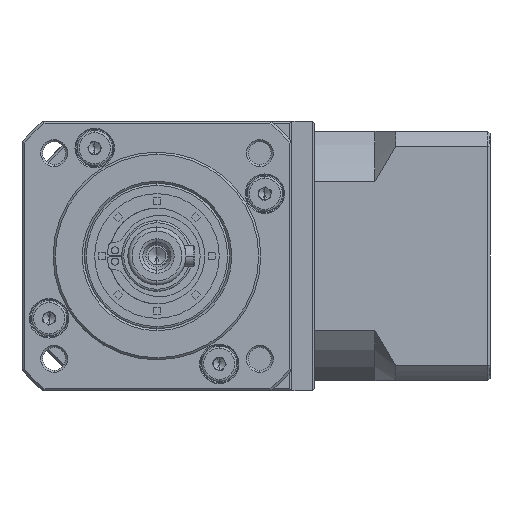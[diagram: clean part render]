
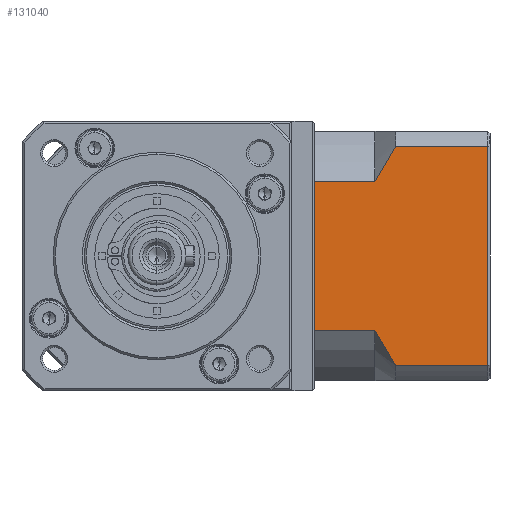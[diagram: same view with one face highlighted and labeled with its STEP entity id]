
A CAD part, left-side view. The second image highlights one B-rep face of the part: STEP entity #131040.
In plain terms, the highlighted planar face has unit normal (-1, 0, 0).
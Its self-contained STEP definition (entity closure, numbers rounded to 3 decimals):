
#214 = CARTESIAN_POINT ( 'NONE',  ( -9.184, -51.53, -147.118 ) ) ;
#3500 = CARTESIAN_POINT ( 'NONE',  ( -9.184, -77.98, -101.176 ) ) ;
#3913 = CARTESIAN_POINT ( 'NONE',  ( -9.184, -36.28, -109.606 ) ) ;
#5888 = EDGE_CURVE ( 'NONE', #111034, #83224, #102522, .T. ) ;
#13410 = CARTESIAN_POINT ( 'NONE',  ( -9.184, -50.78, -145.661 ) ) ;
#15005 = VERTEX_POINT ( 'NONE', #13410 ) ;
#15082 = VECTOR ( 'NONE', #137400, 1000. ) ;
#16159 = AXIS2_PLACEMENT_3D ( 'NONE', #136040, #59116, #148944 ) ;
#17511 = LINE ( 'NONE', #144404, #150129 ) ;
#20546 = CARTESIAN_POINT ( 'NONE',  ( -9.184, -50.78, -154.091 ) ) ;
#25579 = CARTESIAN_POINT ( 'NONE',  ( -9.184, -55.78, -101.176 ) ) ;
#25853 = ORIENTED_EDGE ( 'NONE', *, *, #137907, .T. ) ;
#26283 = LINE ( 'NONE', #139300, #56457 ) ;
#29552 = CARTESIAN_POINT ( 'NONE',  ( -9.184, -50.78, -109.606 ) ) ;
#32630 = EDGE_CURVE ( 'NONE', #107332, #159757, #161778, .T. ) ;
#34105 = VECTOR ( 'NONE', #149119, 1000. ) ;
#38448 = CARTESIAN_POINT ( 'NONE',  ( -9.184, -52.331, -106.722 ) ) ;
#44736 = LINE ( 'NONE', #156613, #143265 ) ;
#51424 = CARTESIAN_POINT ( 'NONE',  ( -9.184, -50.78, -109.606 ) ) ;
#52170 = EDGE_CURVE ( 'NONE', #111034, #67256, #123357, .T. ) ;
#53869 = DIRECTION ( 'NONE',  ( 0., -1., 0. ) ) ;
#56457 = VECTOR ( 'NONE', #152198, 1000. ) ;
#59116 = DIRECTION ( 'NONE',  ( 1., 0., 0. ) ) ;
#61096 = VERTEX_POINT ( 'NONE', #3913 ) ;
#61779 = ORIENTED_EDGE ( 'NONE', *, *, #98376, .F. ) ;
#64828 = CARTESIAN_POINT ( 'NONE',  ( -9.184, -54.004, -151.349 ) ) ;
#65865 = EDGE_CURVE ( 'NONE', #15005, #153765, #83462, .T. ) ;
#66006 = ORIENTED_EDGE ( 'NONE', *, *, #133840, .T. ) ;
#67256 = VERTEX_POINT ( 'NONE', #3500 ) ;
#68325 = CARTESIAN_POINT ( 'NONE',  ( -9.184, -77.98, -157.634 ) ) ;
#77761 = CARTESIAN_POINT ( 'NONE',  ( -9.184, -55.78, -154.091 ) ) ;
#78992 = EDGE_LOOP ( 'NONE', ( #105957, #91984, #61779, #150255, #110105, #66006, #154446, #25853 ) ) ;
#81245 = DIRECTION ( 'NONE',  ( 0., 0., 1. ) ) ;
#83224 = VERTEX_POINT ( 'NONE', #140187 ) ;
#83462 = LINE ( 'NONE', #124522, #15082 ) ;
#91984 = ORIENTED_EDGE ( 'NONE', *, *, #52170, .T. ) ;
#98376 = EDGE_CURVE ( 'NONE', #107332, #67256, #26283, .T. ) ;
#101257 = FACE_OUTER_BOUND ( 'NONE', #78992, .T. ) ;
#102522 = LINE ( 'NONE', #20546, #34105 ) ;
#102525 = CARTESIAN_POINT ( 'NONE',  ( -9.184, -54.88, -102.536 ) ) ;
#103163 = B_SPLINE_CURVE_WITH_KNOTS ( 'NONE', 3,
 ( #128901, #214, #141796, #64828, #154685, #77761 ),
 .UNSPECIFIED., .F., .F.,
 ( 4, 2, 4 ),
 ( 0.1, 0.104, 0.109 ),
 .UNSPECIFIED. ) ;
#105957 = ORIENTED_EDGE ( 'NONE', *, *, #5888, .F. ) ;
#107332 = VERTEX_POINT ( 'NONE', #166167 ) ;
#110105 = ORIENTED_EDGE ( 'NONE', *, *, #122053, .F. ) ;
#111034 = VERTEX_POINT ( 'NONE', #143352 ) ;
#115444 = CARTESIAN_POINT ( 'NONE',  ( -9.184, -54.007, -103.915 ) ) ;
#119405 = VECTOR ( 'NONE', #81245, 1000. ) ;
#122053 = EDGE_CURVE ( 'NONE', #61096, #159757, #44736, .T. ) ;
#123357 = LINE ( 'NONE', #68325, #119405 ) ;
#124522 = CARTESIAN_POINT ( 'NONE',  ( -9.184, -50.78, -145.661 ) ) ;
#128408 = CARTESIAN_POINT ( 'NONE',  ( -9.184, -51.528, -108.154 ) ) ;
#128901 = CARTESIAN_POINT ( 'NONE',  ( -9.184, -50.78, -145.661 ) ) ;
#131040 = ADVANCED_FACE ( 'NONE', ( #101257 ), #132725, .F. ) ;
#132725 = PLANE ( 'NONE',  #16159 ) ;
#133840 = EDGE_CURVE ( 'NONE', #61096, #153765, #17511, .T. ) ;
#136040 = CARTESIAN_POINT ( 'NONE',  ( -9.184, -78.48, -157.634 ) ) ;
#137400 = DIRECTION ( 'NONE',  ( 0., 1., 0. ) ) ;
#137907 = EDGE_CURVE ( 'NONE', #15005, #83224, #103163, .T. ) ;
#139300 = CARTESIAN_POINT ( 'NONE',  ( -9.184, -50.78, -101.176 ) ) ;
#140187 = CARTESIAN_POINT ( 'NONE',  ( -9.184, -55.78, -154.091 ) ) ;
#141796 = CARTESIAN_POINT ( 'NONE',  ( -9.184, -52.33, -148.543 ) ) ;
#143265 = VECTOR ( 'NONE', #53869, 1000. ) ;
#143352 = CARTESIAN_POINT ( 'NONE',  ( -9.184, -77.98, -154.091 ) ) ;
#144404 = CARTESIAN_POINT ( 'NONE',  ( -9.184, -36.28, -157.634 ) ) ;
#148944 = DIRECTION ( 'NONE',  ( 0., 1., 0. ) ) ;
#149119 = DIRECTION ( 'NONE',  ( 0., 1., 0. ) ) ;
#150129 = VECTOR ( 'NONE', #157315, 1000. ) ;
#150255 = ORIENTED_EDGE ( 'NONE', *, *, #32630, .T. ) ;
#152198 = DIRECTION ( 'NONE',  ( 0., -1., 0. ) ) ;
#153765 = VERTEX_POINT ( 'NONE', #157194 ) ;
#154446 = ORIENTED_EDGE ( 'NONE', *, *, #65865, .F. ) ;
#154685 = CARTESIAN_POINT ( 'NONE',  ( -9.184, -54.878, -152.728 ) ) ;
#156613 = CARTESIAN_POINT ( 'NONE',  ( -9.184, -50.78, -109.606 ) ) ;
#157194 = CARTESIAN_POINT ( 'NONE',  ( -9.184, -36.28, -145.661 ) ) ;
#157315 = DIRECTION ( 'NONE',  ( 0., 0., -1. ) ) ;
#159757 = VERTEX_POINT ( 'NONE', #29552 ) ;
#161778 = B_SPLINE_CURVE_WITH_KNOTS ( 'NONE', 3,
 ( #25579, #102525, #115444, #38448, #128408, #51424 ),
 .UNSPECIFIED., .F., .F.,
 ( 4, 2, 4 ),
 ( 0.052, 0.057, 0.062 ),
 .UNSPECIFIED. ) ;
#166167 = CARTESIAN_POINT ( 'NONE',  ( -9.184, -55.78, -101.176 ) ) ;
